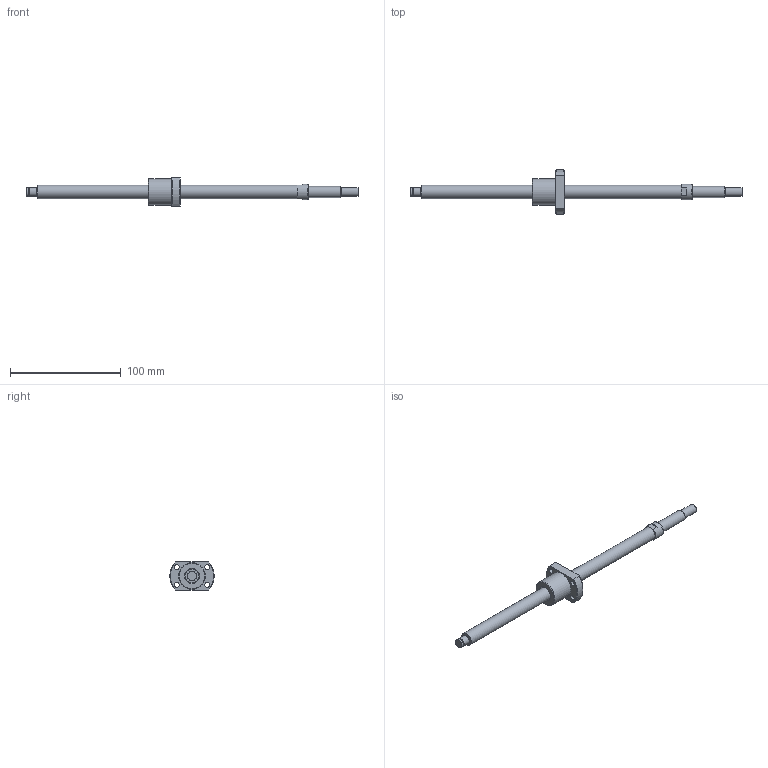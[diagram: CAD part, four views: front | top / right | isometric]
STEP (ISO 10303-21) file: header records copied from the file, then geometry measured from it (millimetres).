
FILE_DESCRIPTION(/* description */ ('STEP AP214'),/* implementation_level */ '2;1');
FILE_NAME(/* name */ 'NSGF1204Z-230R300C3-0-T-S-T-B-(100.5-S)',/* time_stamp */ '2026-08-24T20:18:29+02:00',/* author */ ('License CC BY-ND 4.0'),/* organization */ ('CADENAS'),/* preprocessor_version */ 'ST-DEVELOPER v20',/* originating_system */ 'PARTsolutions',/* authorisation */ ' ');
FILE_SCHEMA (('AUTOMOTIVE_DESIGN {1 0 10303 214 3 1 1}'));
Length unit declared in the file: millimetre
Products named in the file (3): NSGF1204Z-230R300C3-0-T-S-T-B-(100.5-S); NSG1204Z-230R30029_(T-S_T-B_2)-2; NSGF1204Z-1
Assembly tree (2 placements, depth 2):
  NSGF1204Z-230R300C3-0-T-S-T-B-(100.5-S)
    NSG1204Z-230R30029_(T-S_T-B_2)-2
    NSGF1204Z-1
Bounding box: 300 x 39.88 x 26 mm (x, y, z)
Volume: 43160.4 mm3; surface area: 16942.5 mm2
Topology: 2 solids, 2 shells, 45 faces, 96 edges, 62 vertices
Faces by surface type: plane 19, cylinder 16, cone 8, torus 2
Full cylindrical faces by diameter (mm): 4.5 x4, 7.6 x1, 8 x3, 10 x1, 12 x2, 14 x1, 21 x1, 24 x1
Entity records: 1195 total; most frequent: DIRECTION 206, CARTESIAN_POINT 202, ORIENTED_EDGE 144, AXIS2_PLACEMENT_3D 94, EDGE_LOOP 82, FACE_BOUND 82, EDGE_CURVE 72, VERTEX_POINT 58
